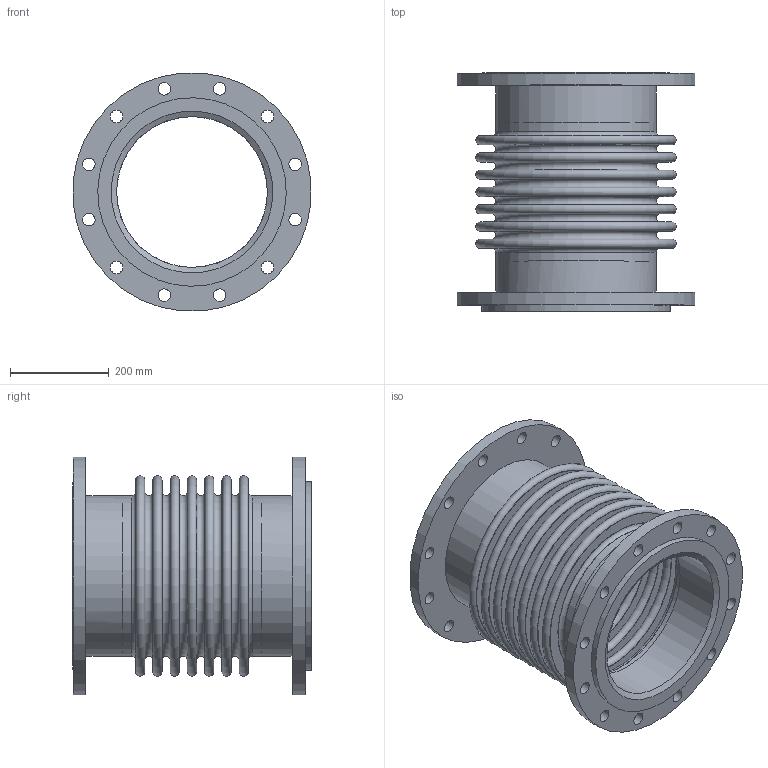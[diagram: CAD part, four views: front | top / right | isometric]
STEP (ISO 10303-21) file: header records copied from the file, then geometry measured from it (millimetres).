
FILE_DESCRIPTION(/* description */ (''),/* implementation_level */ '2;1');
FILE_NAME(/* name */ 'C:\001_Work\Designs\EFL250-ASA150LB\EFL250-12x19 (ASA150LB).stp',/* time_stamp */ '2016-05-15T20:39:51-04:00',/* author */ ('rramoutar'),/* organization */ ('Mason Industries Inc.'),/* preprocessor_version */ 'ST-DEVELOPER v15.6',/* originating_system */ 'Autodesk Inventor 2015',/* authorisation */ '');
FILE_SCHEMA (('CONFIG_CONTROL_DESIGN'));
Length unit declared in the file: inch
Products named in the file (1): EFL250-12x19-ASA150LB
Bounding box: 480.76 x 482.6 x 480.76 mm (x, y, z)
Volume: 7823990.5 mm3; surface area: 2689171.2 mm2
Topology: 1 solids, 1 shells, 109 faces, 223 edges, 153 vertices
Faces by surface type: plane 39, cylinder 37, torus 30, cone 3
Full cylindrical faces by diameter (mm): 25.4 x24, 304.8 x2, 323.088 x2, 325.12 x2, 327.025 x3, 381 x2, 482.6 x2
Entity records: 2673 total; most frequent: DIRECTION 486, CARTESIAN_POINT 376, EDGE_LOOP 266, ORIENTED_EDGE 266, AXIS2_PLACEMENT_3D 243, FACE_BOUND 157, CIRCLE 133, VERTEX_POINT 133
